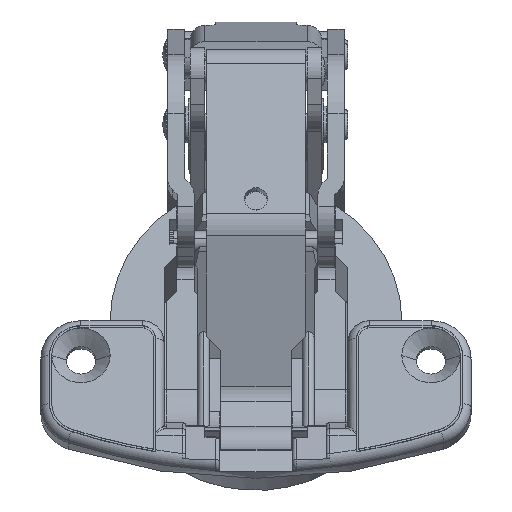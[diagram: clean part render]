
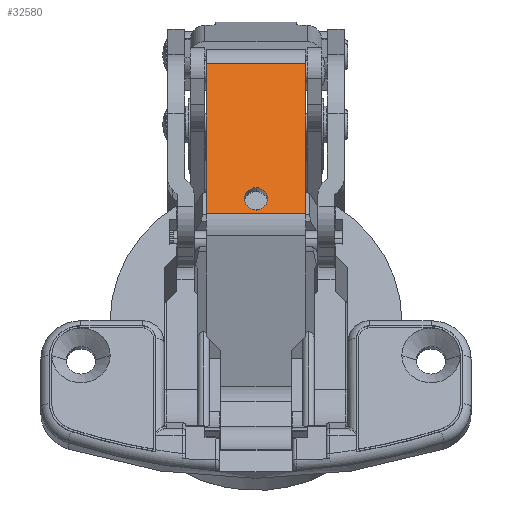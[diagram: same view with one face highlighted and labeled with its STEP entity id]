
A CAD part, top view. The second image highlights one B-rep face of the part: STEP entity #32580.
In plain terms, the highlighted planar face has unit normal (0, 0.34, 0.94) as drawn and (0.135, 0.991, 0) by its records, which use the part's own axes.
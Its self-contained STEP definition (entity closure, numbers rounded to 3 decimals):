
#5463 = AXIS2_PLACEMENT_3D ( 'NONE', #18596, #18597, #18598 ) ;
#6441 = EDGE_LOOP ( 'NONE', ( #11558, #11559, #11560, #11561 ) ) ;
#6444 = EDGE_LOOP ( 'NONE', ( #11556, #11557 ) ) ;
#8524 = VERTEX_POINT ( 'NONE', #17615 ) ;
#8525 = VERTEX_POINT ( 'NONE', #17616 ) ;
#8526 = VERTEX_POINT ( 'NONE', #17617 ) ;
#8530 = VERTEX_POINT ( 'NONE', #17621 ) ;
#8572 = VERTEX_POINT ( 'NONE', #17663 ) ;
#8579 = VERTEX_POINT ( 'NONE', #17670 ) ;
#11556 = ORIENTED_EDGE ( 'NONE', *, *, #24163, .F. ) ;
#11557 = ORIENTED_EDGE ( 'NONE', *, *, #26666, .F. ) ;
#11558 = ORIENTED_EDGE ( 'NONE', *, *, #24166, .T. ) ;
#11559 = ORIENTED_EDGE ( 'NONE', *, *, #24167, .T. ) ;
#11560 = ORIENTED_EDGE ( 'NONE', *, *, #24133, .F. ) ;
#11561 = ORIENTED_EDGE ( 'NONE', *, *, #26671, .T. ) ;
#15287 = LINE ( 'NONE', #18556, #15290 ) ;
#15290 = VECTOR ( 'NONE', #18557, 1000. ) ;
#15311 = LINE ( 'NONE', #18595, #15318 ) ;
#15313 = CIRCLE ( 'NONE', #5463, 1.6 ) ;
#15314 = LINE ( 'NONE', #18590, #15316 ) ;
#15316 = VECTOR ( 'NONE', #18591, 1000. ) ;
#15318 = VECTOR ( 'NONE', #18599, 1000. ) ;
#17615 = CARTESIAN_POINT ( 'NONE',  ( 53.306, 2.972, 13.7 ) ) ;
#17616 = CARTESIAN_POINT ( 'NONE',  ( 35.372, 5.421, 6.85 ) ) ;
#17617 = CARTESIAN_POINT ( 'NONE',  ( 32.202, 5.854, 6.85 ) ) ;
#17621 = CARTESIAN_POINT ( 'NONE',  ( 53.306, 2.972, 0. ) ) ;
#17663 = CARTESIAN_POINT ( 'NONE',  ( 31.655, 5.929, 13.7 ) ) ;
#17670 = CARTESIAN_POINT ( 'NONE',  ( 31.655, 5.929, 0. ) ) ;
#18556 = CARTESIAN_POINT ( 'NONE',  ( 30.071, 6.145, 13.7 ) ) ;
#18557 = DIRECTION ( 'NONE',  ( -0.991, 0.135, 0. ) ) ;
#18590 = CARTESIAN_POINT ( 'NONE',  ( 30.071, 6.145, 0. ) ) ;
#18591 = DIRECTION ( 'NONE',  ( -0.991, 0.135, 0. ) ) ;
#18595 = CARTESIAN_POINT ( 'NONE',  ( 31.655, 5.929, 13.7 ) ) ;
#18596 = CARTESIAN_POINT ( 'NONE',  ( 33.787, 5.638, 6.85 ) ) ;
#18597 = DIRECTION ( 'NONE',  ( 0.135, 0.991, 0. ) ) ;
#18598 = DIRECTION ( 'NONE',  ( -0.991, 0.135, 0. ) ) ;
#18599 = DIRECTION ( 'NONE',  ( 0., 0., 1. ) ) ;
#20951 = AXIS2_PLACEMENT_3D ( 'NONE', #24682, #24684, #24685 ) ;
#21453 = AXIS2_PLACEMENT_3D ( 'NONE', #29670, #29678, #29679 ) ;
#23003 = CIRCLE ( 'NONE', #20951, 1.6 ) ;
#23010 = LINE ( 'NONE', #24697, #23012 ) ;
#23012 = VECTOR ( 'NONE', #24689, 1000. ) ;
#24133 = EDGE_CURVE ( 'NONE', #8524, #8572, #15287, .T. ) ;
#24163 = EDGE_CURVE ( 'NONE', #8526, #8525, #15313, .T. ) ;
#24166 = EDGE_CURVE ( 'NONE', #8530, #8579, #15314, .T. ) ;
#24167 = EDGE_CURVE ( 'NONE', #8579, #8572, #15311, .T. ) ;
#24682 = CARTESIAN_POINT ( 'NONE',  ( 33.787, 5.638, 6.85 ) ) ;
#24684 = DIRECTION ( 'NONE',  ( 0.135, 0.991, 0. ) ) ;
#24685 = DIRECTION ( 'NONE',  ( -0.991, 0.135, 0. ) ) ;
#24689 = DIRECTION ( 'NONE',  ( 0., 0., -1. ) ) ;
#24697 = CARTESIAN_POINT ( 'NONE',  ( 53.306, 2.972, 13.7 ) ) ;
#26666 = EDGE_CURVE ( 'NONE', #8525, #8526, #23003, .T. ) ;
#26671 = EDGE_CURVE ( 'NONE', #8524, #8530, #23010, .T. ) ;
#27608 = FACE_BOUND ( 'NONE', #6444, .T. ) ;
#27611 = FACE_OUTER_BOUND ( 'NONE', #6441, .T. ) ;
#29670 = CARTESIAN_POINT ( 'NONE',  ( 30.071, 6.145, 13.7 ) ) ;
#29676 = PLANE ( 'NONE',  #21453 ) ;
#29678 = DIRECTION ( 'NONE',  ( -0.135, -0.991, 0. ) ) ;
#29679 = DIRECTION ( 'NONE',  ( 0.991, -0.135, 0. ) ) ;
#32580 = ADVANCED_FACE ( 'NONE', ( #27608, #27611 ), #29676, .F. ) ;
